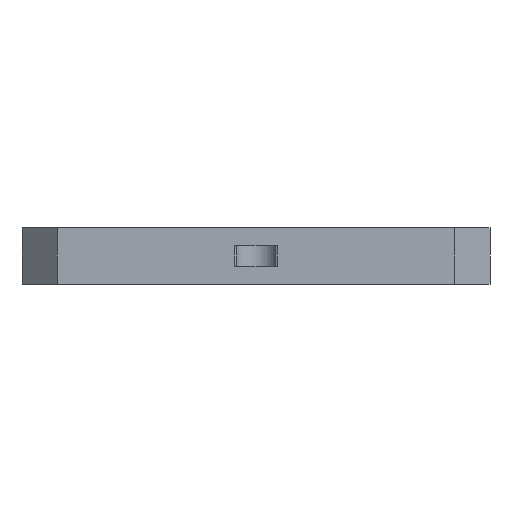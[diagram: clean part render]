
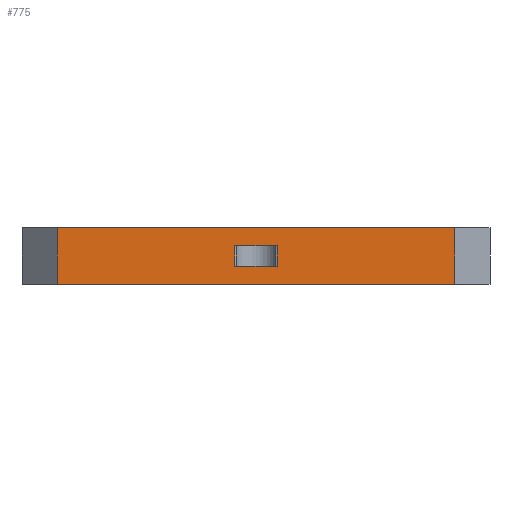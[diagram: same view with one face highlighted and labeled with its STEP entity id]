
A CAD part, left-side view. The second image highlights one B-rep face of the part: STEP entity #775.
In plain terms, the highlighted planar face has unit normal (-1, 0, 0).
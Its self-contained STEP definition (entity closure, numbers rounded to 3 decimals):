
#80 = VERTEX_POINT('',#81);
#81 = CARTESIAN_POINT('',(1386.,-1558.2,0.));
#89 = EDGE_CURVE('',#80,#90,#92,.T.);
#90 = VERTEX_POINT('',#91);
#91 = CARTESIAN_POINT('',(1386.,-1605.8,0.));
#92 = LINE('',#93,#94);
#93 = CARTESIAN_POINT('',(1386.,-1558.2,0.));
#94 = VECTOR('',#95,1.);
#95 = DIRECTION('',(-0.,-1.,-0.));
#432 = VERTEX_POINT('',#433);
#433 = CARTESIAN_POINT('',(1386.,-1558.2,6.8));
#439 = EDGE_CURVE('',#432,#440,#442,.T.);
#440 = VERTEX_POINT('',#441);
#441 = CARTESIAN_POINT('',(1386.,-1605.8,6.8));
#442 = LINE('',#443,#444);
#443 = CARTESIAN_POINT('',(1386.,-1558.2,6.8));
#444 = VECTOR('',#445,1.);
#445 = DIRECTION('',(-0.,-1.,-0.));
#765 = EDGE_CURVE('',#432,#80,#766,.T.);
#766 = LINE('',#767,#768);
#767 = CARTESIAN_POINT('',(1386.,-1558.2,6.8));
#768 = VECTOR('',#769,1.);
#769 = DIRECTION('',(0.,0.,-1.));
#775 = ADVANCED_FACE('',(#776,#810),#821,.F.);
#776 = FACE_BOUND('',#777,.T.);
#777 = EDGE_LOOP('',(#778,#788,#796,#804));
#778 = ORIENTED_EDGE('',*,*,#779,.F.);
#779 = EDGE_CURVE('',#780,#782,#784,.T.);
#780 = VERTEX_POINT('',#781);
#781 = CARTESIAN_POINT('',(1386.,-1579.433,4.6));
#782 = VERTEX_POINT('',#783);
#783 = CARTESIAN_POINT('',(1386.,-1579.433,2.2));
#784 = LINE('',#785,#786);
#785 = CARTESIAN_POINT('',(1386.,-1579.433,4.6));
#786 = VECTOR('',#787,1.);
#787 = DIRECTION('',(0.,0.,-1.));
#788 = ORIENTED_EDGE('',*,*,#789,.T.);
#789 = EDGE_CURVE('',#780,#790,#792,.T.);
#790 = VERTEX_POINT('',#791);
#791 = CARTESIAN_POINT('',(1386.,-1584.567,4.6));
#792 = LINE('',#793,#794);
#793 = CARTESIAN_POINT('',(1386.,-1579.433,4.6));
#794 = VECTOR('',#795,1.);
#795 = DIRECTION('',(-0.,-1.,-0.));
#796 = ORIENTED_EDGE('',*,*,#797,.F.);
#797 = EDGE_CURVE('',#798,#790,#800,.T.);
#798 = VERTEX_POINT('',#799);
#799 = CARTESIAN_POINT('',(1386.,-1584.567,2.2));
#800 = LINE('',#801,#802);
#801 = CARTESIAN_POINT('',(1386.,-1584.567,2.2));
#802 = VECTOR('',#803,1.);
#803 = DIRECTION('',(0.,0.,1.));
#804 = ORIENTED_EDGE('',*,*,#805,.F.);
#805 = EDGE_CURVE('',#782,#798,#806,.T.);
#806 = LINE('',#807,#808);
#807 = CARTESIAN_POINT('',(1386.,-1579.433,2.2));
#808 = VECTOR('',#809,1.);
#809 = DIRECTION('',(0.,-1.,0.));
#810 = FACE_BOUND('',#811,.T.);
#811 = EDGE_LOOP('',(#812,#813,#814,#815));
#812 = ORIENTED_EDGE('',*,*,#439,.F.);
#813 = ORIENTED_EDGE('',*,*,#765,.T.);
#814 = ORIENTED_EDGE('',*,*,#89,.T.);
#815 = ORIENTED_EDGE('',*,*,#816,.T.);
#816 = EDGE_CURVE('',#90,#440,#817,.T.);
#817 = LINE('',#818,#819);
#818 = CARTESIAN_POINT('',(1386.,-1605.8,0.));
#819 = VECTOR('',#820,1.);
#820 = DIRECTION('',(0.,0.,1.));
#821 = PLANE('',#822);
#822 = AXIS2_PLACEMENT_3D('',#823,#824,#825);
#823 = CARTESIAN_POINT('',(1386.,-1603.962,6.8));
#824 = DIRECTION('',(1.,0.,0.));
#825 = DIRECTION('',(0.,0.,-1.));
